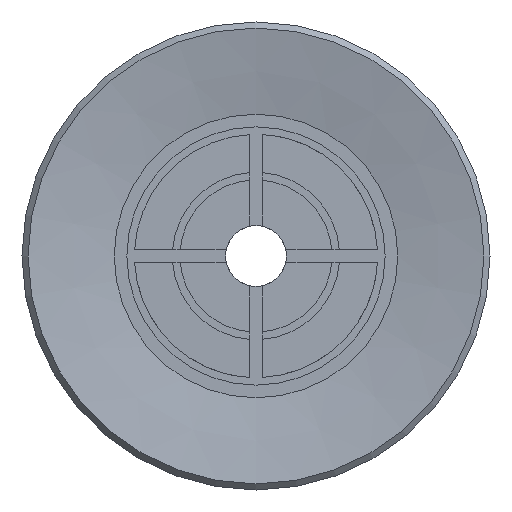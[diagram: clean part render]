
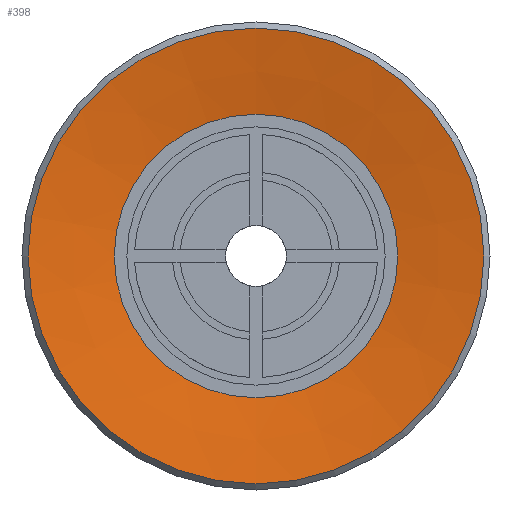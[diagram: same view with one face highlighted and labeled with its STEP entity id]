
A CAD part, front view. The second image highlights one B-rep face of the part: STEP entity #398.
In plain terms, the highlighted conical face has half-angle 80 degrees and reference radius 4.664 mm.
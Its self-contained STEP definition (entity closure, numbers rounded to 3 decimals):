
#398=ADVANCED_FACE('',(#693,#694),#695,.F.);
#693=FACE_BOUND('',#1002,.T.);
#694=FACE_OUTER_BOUND('',#1003,.T.);
#695=CONICAL_SURFACE('',#1004,4.664,1.396);
#1002=EDGE_LOOP('',(#1827));
#1003=EDGE_LOOP('',(#1828));
#1004=AXIS2_PLACEMENT_3D('',#1829,#1830,#1831);
#1827=ORIENTED_EDGE('',*,*,#2060,.F.);
#1828=ORIENTED_EDGE('',*,*,#2135,.T.);
#1829=CARTESIAN_POINT('',(0.0,0.5,0.0));
#1830=DIRECTION('',(-0.0,-1.0,0.));
#1831=DIRECTION('',(0.0,0.,-1.0));
#2060=EDGE_CURVE('',#2425,#2425,#2426,.T.);
#2135=EDGE_CURVE('',#2541,#2541,#2542,.T.);
#2425=VERTEX_POINT('',#3260);
#2426=CIRCLE('',#3261,4.664);
#2541=VERTEX_POINT('',#3472);
#2542=CIRCLE('',#3473,7.5);
#3260=CARTESIAN_POINT('',(0.0,0.5,-4.664));
#3261=AXIS2_PLACEMENT_3D('',#3730,#3731,#3732);
#3472=CARTESIAN_POINT('',(0.0,0.,-7.5));
#3473=AXIS2_PLACEMENT_3D('',#3849,#3850,#3851);
#3730=CARTESIAN_POINT('',(0.0,0.5,0.0));
#3731=DIRECTION('',(0.0,-1.0,0.));
#3732=DIRECTION('',(0.0,0.,-1.0));
#3849=CARTESIAN_POINT('',(0.0,0.0,0.0));
#3850=DIRECTION('',(0.0,-1.0,0.));
#3851=DIRECTION('',(0.0,0.,-1.0));
